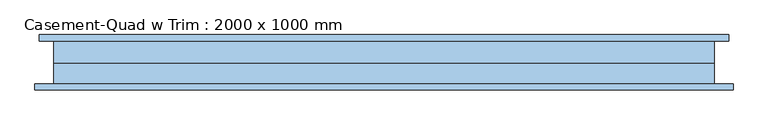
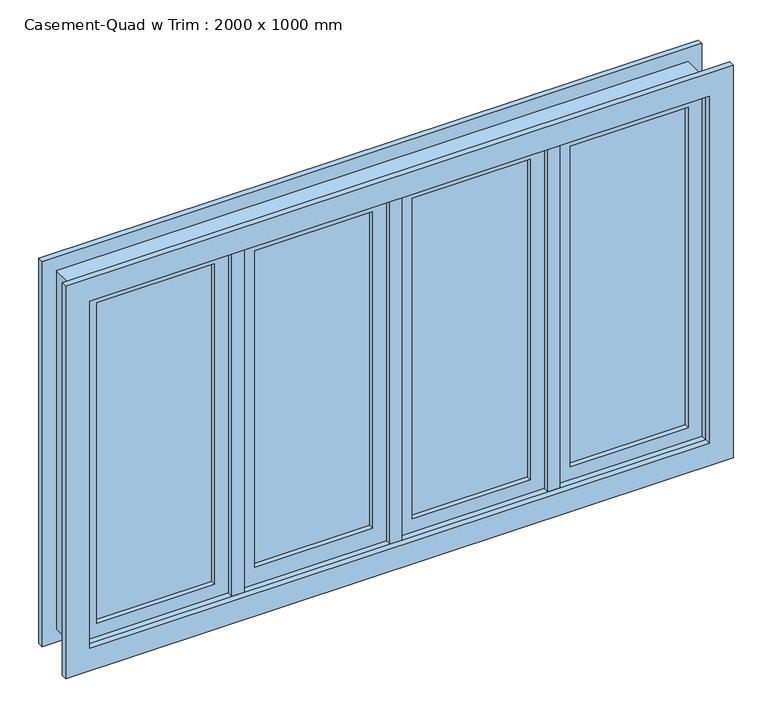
"""IFC4 building model written with IfcOpenShell, lengths in millimetres: window geometry, Casement-Quad w Trim : 2000 x 1000 mm."""

from ifc_helpers import new_model, si_unit, frame, origin, place, context, project, spatial, polyline, outline, extrude, source, transform, mapped, element, save


def casement_quad_w_trim_2000_x_1000_mm_c4cc244c(model_context):
    return source(origin(), model_context, "Body", "SweptSolid", [
        extrude(outline(polyline([(2158.85, 1044.45), (2158.85, -1044.45), (869.95, -1044.45), (869.95, 1044.45), (2158.85, 1044.45)]), holes=[polyline([(2082.65, -968.25), (2082.65, 968.25), (946.15, 968.25), (946.15, -968.25), (2082.65, -968.25)])]), frame((0.0, 45.95, 0.0), z_axis=(0.0, 1.0, 0.0), x_axis=(0.0, 0.0, 1.0)), (0.0, 0.0, 1.0), 19.05),
        extrude(outline(polyline([(2171.55, -1057.15), (857.25, -1057.15), (857.25, 1057.15), (2171.55, 1057.15), (2171.55, -1057.15)]), holes=[polyline([(2095.35, 980.95), (933.45, 980.95), (933.45, -980.95), (2095.35, -980.95), (2095.35, 980.95)])]), frame((0.0, -103.1, 0.0), z_axis=(0.0, 1.0, 0.0), x_axis=(0.0, 0.0, 1.0)), (0.0, 0.0, 1.0), 19.05),
        extrude(outline(polyline([(63.5, -49.125), (63.5, -36.425), (436.5, -36.425), (436.5, -49.125), (63.5, -49.125)])), frame((0.0, 0.0, 977.9), z_axis=(0.0, 0.0, 1.0), x_axis=(1.0, 0.0, 0.0)), (0.0, 0.0, 1.0), 1073.0),
        extrude(outline(polyline([(-436.5, -49.125), (-436.5, -36.425), (-63.5, -36.425), (-63.5, -49.125), (-436.5, -49.125)])), frame((0.0, 0.0, 990.6), z_axis=(0.0, 0.0, 1.0), x_axis=(1.0, 0.0, 0.0)), (0.0, 0.0, 1.0), 1060.3),
        extrude(outline(polyline([(2095.35, 19.05), (933.45, 19.05), (933.45, 480.95), (2095.35, 480.95), (2095.35, 19.05)]), holes=[polyline([(2050.9, 63.5), (2050.9, 436.5), (977.9, 436.5), (977.9, 63.5), (2050.9, 63.5)])]), frame((0.0, -65.0, 0.0), z_axis=(0.0, 1.0, 0.0), x_axis=(0.0, 0.0, 1.0)), (0.0, 0.0, 1.0), 44.45),
        extrude(outline(polyline([(2095.35, -480.95), (933.45, -480.95), (933.45, -19.05), (2095.35, -19.05), (2095.35, -480.95)]), holes=[polyline([(2050.9, -436.5), (2050.9, -63.5), (990.6, -63.5), (990.6, -436.5), (2050.9, -436.5)])]), frame((0.0, -65.0, 0.0), z_axis=(0.0, 1.0, 0.0), x_axis=(0.0, 0.0, 1.0)), (0.0, 0.0, 1.0), 44.45),
        extrude(outline(polyline([(563.5, -49.125), (563.5, -36.425), (936.5, -36.425), (936.5, -49.125), (563.5, -49.125)])), frame((0.0, 0.0, 977.9), z_axis=(0.0, 0.0, 1.0), x_axis=(1.0, 0.0, 0.0)), (0.0, 0.0, 1.0), 1073.0),
        extrude(outline(polyline([(2095.35, 519.05), (933.45, 519.05), (933.45, 980.95), (2095.35, 980.95), (2095.35, 519.05)]), holes=[polyline([(2050.9, 563.5), (2050.9, 936.5), (977.9, 936.5), (977.9, 563.5), (2050.9, 563.5)])]), frame((0.0, -65.0, 0.0), z_axis=(0.0, 1.0, 0.0), x_axis=(0.0, 0.0, 1.0)), (0.0, 0.0, 1.0), 44.45),
        extrude(outline(polyline([(-480.95, -20.55), (-480.95, -84.05), (-519.05, -84.05), (-519.05, -20.55), (-480.95, -20.55)])), frame((0.0, 0.0, 933.45), z_axis=(0.0, 0.0, 1.0), x_axis=(1.0, 0.0, 0.0)), (0.0, 0.0, 1.0), 1161.9),
        extrude(outline(polyline([(519.05, -20.55), (519.05, -84.05), (480.95, -84.05), (480.95, -20.55), (519.05, -20.55)])), frame((0.0, 0.0, 933.45), z_axis=(0.0, 0.0, 1.0), x_axis=(1.0, 0.0, 0.0)), (0.0, 0.0, 1.0), 1161.9),
        extrude(outline(polyline([(19.05, -20.55), (19.05, -84.05), (-19.05, -84.05), (-19.05, -20.55), (19.05, -20.55)])), frame((0.0, 0.0, 933.45), z_axis=(0.0, 0.0, 1.0), x_axis=(1.0, 0.0, 0.0)), (0.0, 0.0, 1.0), 1161.9),
        extrude(outline(polyline([(-563.5, -36.425), (-563.5, -49.125), (-936.5, -49.125), (-936.5, -36.425), (-563.5, -36.425)])), frame((0.0, 0.0, 977.9), z_axis=(0.0, 0.0, 1.0), x_axis=(1.0, 0.0, 0.0)), (0.0, 0.0, 1.0), 1073.0),
        extrude(outline(polyline([(2095.35, -980.95), (933.45, -980.95), (933.45, -519.05), (2095.35, -519.05), (2095.35, -980.95)]), holes=[polyline([(2050.9, -936.5), (2050.9, -563.5), (977.9, -563.5), (977.9, -936.5), (2050.9, -936.5)])]), frame((0.0, -65.0, 0.0), z_axis=(0.0, 1.0, 0.0), x_axis=(0.0, 0.0, 1.0)), (0.0, 0.0, 1.0), 44.45),
        extrude(outline(polyline([(2114.4, -1000.0), (914.4, -1000.0), (914.4, 1000.0), (2114.4, 1000.0), (2114.4, -1000.0)]), holes=[polyline([(2082.65, -968.25), (2082.65, 968.25), (946.15, 968.25), (946.15, -968.25), (2082.65, -968.25)])]), frame((0.0, -20.55, 0.0), z_axis=(0.0, 1.0, 0.0), x_axis=(0.0, 0.0, 1.0)), (0.0, 0.0, 1.0), 66.5),
        extrude(outline(polyline([(2114.4, 1000.0), (2114.4, -1000.0), (914.4, -1000.0), (914.4, 1000.0), (2114.4, 1000.0)]), holes=[polyline([(2095.35, 980.95), (933.45, 980.95), (933.45, -980.95), (2095.35, -980.95), (2095.35, 980.95)])]), frame((0.0, -84.05, 0.0), z_axis=(0.0, 1.0, 0.0), x_axis=(0.0, 0.0, 1.0)), (0.0, 0.0, 1.0), 63.5),
    ])


if __name__ == "__main__":
    model = new_model("IFC4")
    model_context = context("Model", 3, world=origin())
    ifc_project = project(units=[si_unit("LENGTHUNIT", "METRE", prefix="MILLI")], contexts=[model_context])
    site = spatial("IfcSite", under=ifc_project)
    building = spatial("IfcBuilding", under=site)
    placement = place(None, origin())
    casement_quad_w_trim_2000_x_1000_mm_shape = casement_quad_w_trim_2000_x_1000_mm_c4cc244c(model_context)
    element("IfcWindow", 1, ObjectType="Casement-Quad w Trim : 2000 x 1000 mm", at=placement, inside=building, context=model_context, shape_type="MappedRepresentation", body=[
        mapped(casement_quad_w_trim_2000_x_1000_mm_shape, transform((0.0, 0.0, 0.0), x_axis=(1.0, 0.0, 0.0), y_axis=(0.0, 1.0, 0.0), z_axis=(0.0, 0.0, 1.0))),
    ])
    save(model, "model.ifc")
